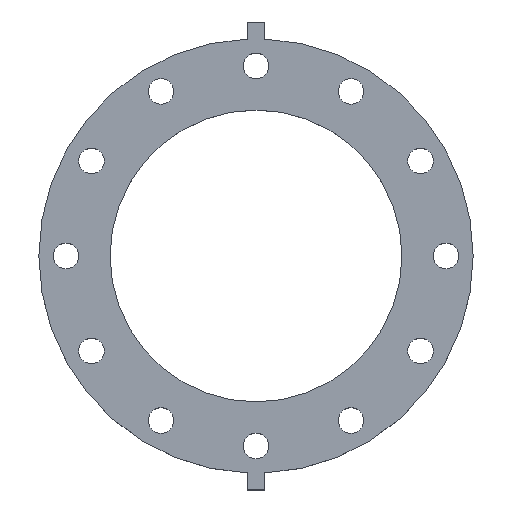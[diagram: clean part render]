
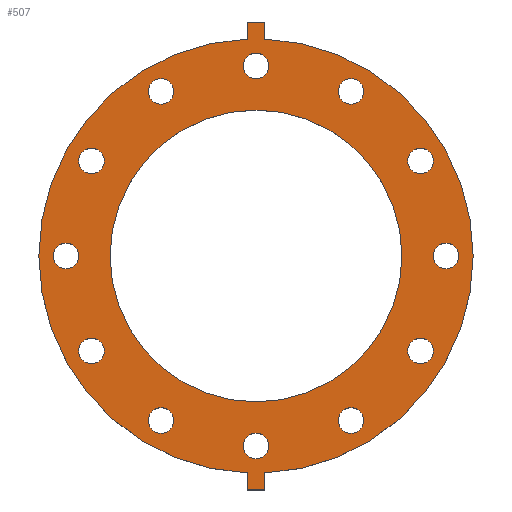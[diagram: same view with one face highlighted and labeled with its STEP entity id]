
A CAD part, top view. The second image highlights one B-rep face of the part: STEP entity #507.
In plain terms, the highlighted planar face has unit normal (0, 0, 1).
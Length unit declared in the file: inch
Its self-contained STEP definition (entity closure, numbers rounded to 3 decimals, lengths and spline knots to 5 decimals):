
#14=FACE_BOUND('',#93,.T.);
#15=FACE_BOUND('',#94,.T.);
#16=FACE_BOUND('',#95,.T.);
#17=FACE_BOUND('',#96,.T.);
#18=FACE_BOUND('',#97,.T.);
#19=FACE_BOUND('',#98,.T.);
#20=FACE_BOUND('',#99,.T.);
#21=FACE_BOUND('',#100,.T.);
#22=FACE_BOUND('',#101,.T.);
#23=FACE_BOUND('',#102,.T.);
#24=FACE_BOUND('',#103,.T.);
#25=FACE_BOUND('',#104,.T.);
#26=FACE_BOUND('',#105,.T.);
#46=PLANE('',#580);
#69=FACE_OUTER_BOUND('',#92,.T.);
#92=EDGE_LOOP('',(#405,#406,#407,#408,#409,#410,#411,#412));
#93=EDGE_LOOP('',(#413));
#94=EDGE_LOOP('',(#414));
#95=EDGE_LOOP('',(#415));
#96=EDGE_LOOP('',(#416));
#97=EDGE_LOOP('',(#417));
#98=EDGE_LOOP('',(#418));
#99=EDGE_LOOP('',(#419));
#100=EDGE_LOOP('',(#420));
#101=EDGE_LOOP('',(#421));
#102=EDGE_LOOP('',(#422));
#103=EDGE_LOOP('',(#423));
#104=EDGE_LOOP('',(#424));
#105=EDGE_LOOP('',(#425));
#139=LINE('',#825,#172);
#141=LINE('',#830,#174);
#144=LINE('',#834,#177);
#147=LINE('',#842,#180);
#150=LINE('',#846,#183);
#152=LINE('',#849,#185);
#172=VECTOR('',#695,0.3937);
#174=VECTOR('',#699,0.3937);
#177=VECTOR('',#704,0.3937);
#180=VECTOR('',#709,0.3937);
#183=VECTOR('',#714,0.3937);
#185=VECTOR('',#718,0.3937);
#186=CIRCLE('',#530,0.47);
#188=CIRCLE('',#533,0.47);
#190=CIRCLE('',#536,0.47);
#192=CIRCLE('',#539,0.47);
#194=CIRCLE('',#542,0.47);
#196=CIRCLE('',#545,0.47);
#198=CIRCLE('',#548,0.47);
#200=CIRCLE('',#551,0.47);
#202=CIRCLE('',#554,0.47);
#204=CIRCLE('',#557,0.47);
#206=CIRCLE('',#560,0.47);
#208=CIRCLE('',#563,0.47);
#211=CIRCLE('',#567,5.375);
#213=CIRCLE('',#570,8.);
#214=CIRCLE('',#572,8.);
#216=VERTEX_POINT('',#725);
#218=VERTEX_POINT('',#731);
#220=VERTEX_POINT('',#737);
#222=VERTEX_POINT('',#743);
#224=VERTEX_POINT('',#749);
#226=VERTEX_POINT('',#755);
#228=VERTEX_POINT('',#761);
#230=VERTEX_POINT('',#767);
#232=VERTEX_POINT('',#773);
#234=VERTEX_POINT('',#779);
#236=VERTEX_POINT('',#785);
#238=VERTEX_POINT('',#791);
#241=VERTEX_POINT('',#799);
#243=VERTEX_POINT('',#804);
#245=VERTEX_POINT('',#808);
#247=VERTEX_POINT('',#813);
#248=VERTEX_POINT('',#815);
#251=VERTEX_POINT('',#823);
#253=VERTEX_POINT('',#829);
#256=VERTEX_POINT('',#839);
#257=VERTEX_POINT('',#841);
#258=EDGE_CURVE('',#216,#216,#186,.T.);
#261=EDGE_CURVE('',#218,#218,#188,.T.);
#264=EDGE_CURVE('',#220,#220,#190,.T.);
#267=EDGE_CURVE('',#222,#222,#192,.T.);
#270=EDGE_CURVE('',#224,#224,#194,.T.);
#273=EDGE_CURVE('',#226,#226,#196,.T.);
#276=EDGE_CURVE('',#228,#228,#198,.T.);
#279=EDGE_CURVE('',#230,#230,#200,.T.);
#282=EDGE_CURVE('',#232,#232,#202,.T.);
#285=EDGE_CURVE('',#234,#234,#204,.T.);
#288=EDGE_CURVE('',#236,#236,#206,.T.);
#291=EDGE_CURVE('',#238,#238,#208,.T.);
#296=EDGE_CURVE('',#241,#241,#211,.T.);
#300=EDGE_CURVE('',#243,#245,#213,.T.);
#302=EDGE_CURVE('',#248,#247,#214,.T.);
#307=EDGE_CURVE('',#245,#251,#139,.T.);
#309=EDGE_CURVE('',#253,#248,#141,.T.);
#312=EDGE_CURVE('',#251,#253,#144,.T.);
#315=EDGE_CURVE('',#257,#256,#147,.T.);
#318=EDGE_CURVE('',#247,#257,#150,.T.);
#320=EDGE_CURVE('',#256,#243,#152,.T.);
#405=ORIENTED_EDGE('',*,*,#320,.T.);
#406=ORIENTED_EDGE('',*,*,#300,.T.);
#407=ORIENTED_EDGE('',*,*,#307,.T.);
#408=ORIENTED_EDGE('',*,*,#312,.T.);
#409=ORIENTED_EDGE('',*,*,#309,.T.);
#410=ORIENTED_EDGE('',*,*,#302,.T.);
#411=ORIENTED_EDGE('',*,*,#318,.T.);
#412=ORIENTED_EDGE('',*,*,#315,.T.);
#413=ORIENTED_EDGE('',*,*,#258,.T.);
#414=ORIENTED_EDGE('',*,*,#261,.T.);
#415=ORIENTED_EDGE('',*,*,#264,.T.);
#416=ORIENTED_EDGE('',*,*,#267,.T.);
#417=ORIENTED_EDGE('',*,*,#270,.T.);
#418=ORIENTED_EDGE('',*,*,#273,.T.);
#419=ORIENTED_EDGE('',*,*,#276,.T.);
#420=ORIENTED_EDGE('',*,*,#279,.T.);
#421=ORIENTED_EDGE('',*,*,#282,.T.);
#422=ORIENTED_EDGE('',*,*,#285,.T.);
#423=ORIENTED_EDGE('',*,*,#288,.T.);
#424=ORIENTED_EDGE('',*,*,#291,.T.);
#425=ORIENTED_EDGE('',*,*,#296,.T.);
#507=ADVANCED_FACE('',(#69,#14,#15,#16,#17,#18,#19,#20,#21,#22,#23,#24,
#25,#26),#46,.T.);
#530=AXIS2_PLACEMENT_3D('',#726,#586,#587);
#533=AXIS2_PLACEMENT_3D('',#732,#593,#594);
#536=AXIS2_PLACEMENT_3D('',#738,#600,#601);
#539=AXIS2_PLACEMENT_3D('',#744,#607,#608);
#542=AXIS2_PLACEMENT_3D('',#750,#614,#615);
#545=AXIS2_PLACEMENT_3D('',#756,#621,#622);
#548=AXIS2_PLACEMENT_3D('',#762,#628,#629);
#551=AXIS2_PLACEMENT_3D('',#768,#635,#636);
#554=AXIS2_PLACEMENT_3D('',#774,#642,#643);
#557=AXIS2_PLACEMENT_3D('',#780,#649,#650);
#560=AXIS2_PLACEMENT_3D('',#786,#656,#657);
#563=AXIS2_PLACEMENT_3D('',#792,#663,#664);
#567=AXIS2_PLACEMENT_3D('',#801,#673,#674);
#570=AXIS2_PLACEMENT_3D('',#810,#681,#682);
#572=AXIS2_PLACEMENT_3D('',#816,#686,#687);
#580=AXIS2_PLACEMENT_3D('',#850,#719,#720);
#586=DIRECTION('center_axis',(0.,0.,-1.));
#587=DIRECTION('ref_axis',(-0.5,-0.866,0.));
#593=DIRECTION('center_axis',(0.,0.,-1.));
#594=DIRECTION('ref_axis',(-0.866,-0.5,0.));
#600=DIRECTION('center_axis',(0.,0.,-1.));
#601=DIRECTION('ref_axis',(-1.,0.,0.));
#607=DIRECTION('center_axis',(0.,0.,-1.));
#608=DIRECTION('ref_axis',(-0.866,0.5,0.));
#614=DIRECTION('center_axis',(0.,0.,-1.));
#615=DIRECTION('ref_axis',(-0.5,0.866,0.));
#621=DIRECTION('center_axis',(0.,0.,-1.));
#622=DIRECTION('ref_axis',(0.,1.,0.));
#628=DIRECTION('center_axis',(0.,0.,-1.));
#629=DIRECTION('ref_axis',(0.5,0.866,0.));
#635=DIRECTION('center_axis',(0.,0.,-1.));
#636=DIRECTION('ref_axis',(0.866,0.5,0.));
#642=DIRECTION('center_axis',(0.,0.,-1.));
#643=DIRECTION('ref_axis',(1.,0.,0.));
#649=DIRECTION('center_axis',(0.,0.,-1.));
#650=DIRECTION('ref_axis',(0.866,-0.5,0.));
#656=DIRECTION('center_axis',(0.,0.,-1.));
#657=DIRECTION('ref_axis',(0.5,-0.866,0.));
#663=DIRECTION('center_axis',(0.,0.,-1.));
#664=DIRECTION('ref_axis',(0.,-1.,0.));
#673=DIRECTION('center_axis',(0.,0.,-1.));
#674=DIRECTION('ref_axis',(0.,-1.,0.));
#681=DIRECTION('center_axis',(0.,0.,1.));
#682=DIRECTION('ref_axis',(0.,1.,0.));
#686=DIRECTION('center_axis',(0.,0.,1.));
#687=DIRECTION('ref_axis',(0.,1.,0.));
#695=DIRECTION('',(0.,-1.,0.));
#699=DIRECTION('',(0.,1.,0.));
#704=DIRECTION('',(1.,0.,0.));
#709=DIRECTION('',(-1.,0.,0.));
#714=DIRECTION('',(0.,1.,0.));
#718=DIRECTION('',(0.,-1.,0.));
#719=DIRECTION('center_axis',(0.,0.,1.));
#720=DIRECTION('ref_axis',(0.,1.,0.));
#725=CARTESIAN_POINT('',(-5.82718,3.90703,1.25));
#726=CARTESIAN_POINT('Origin',(-6.06218,3.5,1.25));
#731=CARTESIAN_POINT('',(-3.09297,6.29718,1.25));
#732=CARTESIAN_POINT('Origin',(-3.5,6.06218,1.25));
#737=CARTESIAN_POINT('',(0.47,7.,1.25));
#738=CARTESIAN_POINT('Origin',(0.,7.,1.25));
#743=CARTESIAN_POINT('',(3.90703,5.82718,1.25));
#744=CARTESIAN_POINT('Origin',(3.5,6.06218,1.25));
#749=CARTESIAN_POINT('',(6.29718,3.09297,1.25));
#750=CARTESIAN_POINT('Origin',(6.06218,3.5,1.25));
#755=CARTESIAN_POINT('',(7.,-0.47,1.25));
#756=CARTESIAN_POINT('Origin',(7.,0.,1.25));
#761=CARTESIAN_POINT('',(5.82718,-3.90703,1.25));
#762=CARTESIAN_POINT('Origin',(6.06218,-3.5,1.25));
#767=CARTESIAN_POINT('',(3.09297,-6.29718,1.25));
#768=CARTESIAN_POINT('Origin',(3.5,-6.06218,1.25));
#773=CARTESIAN_POINT('',(-0.47,-7.,1.25));
#774=CARTESIAN_POINT('Origin',(0.,-7.,1.25));
#779=CARTESIAN_POINT('',(-3.90703,-5.82718,1.25));
#780=CARTESIAN_POINT('Origin',(-3.5,-6.06218,1.25));
#785=CARTESIAN_POINT('',(-6.29718,-3.09297,1.25));
#786=CARTESIAN_POINT('Origin',(-6.06218,-3.5,1.25));
#791=CARTESIAN_POINT('',(-7.,0.47,1.25));
#792=CARTESIAN_POINT('Origin',(-7.,0.,1.25));
#799=CARTESIAN_POINT('',(0.,5.375,1.25));
#801=CARTESIAN_POINT('Origin',(0.,0.,1.25));
#804=CARTESIAN_POINT('',(-0.32,7.9936,1.25));
#808=CARTESIAN_POINT('',(-0.32,-7.9936,1.25));
#810=CARTESIAN_POINT('Origin',(0.,0.,1.25));
#813=CARTESIAN_POINT('',(0.32,7.9936,1.25));
#815=CARTESIAN_POINT('',(0.32,-7.9936,1.25));
#816=CARTESIAN_POINT('Origin',(0.,0.,1.25));
#823=CARTESIAN_POINT('',(-0.32,-8.62,1.25));
#825=CARTESIAN_POINT('',(-0.32,-7.9936,1.25));
#829=CARTESIAN_POINT('',(0.32,-8.62,1.25));
#830=CARTESIAN_POINT('',(0.32,-8.62,1.25));
#834=CARTESIAN_POINT('',(-0.32,-8.62,1.25));
#839=CARTESIAN_POINT('',(-0.32,8.62,1.25));
#841=CARTESIAN_POINT('',(0.32,8.62,1.25));
#842=CARTESIAN_POINT('',(0.32,8.62,1.25));
#846=CARTESIAN_POINT('',(0.32,7.9936,1.25));
#849=CARTESIAN_POINT('',(-0.32,8.62,1.25));
#850=CARTESIAN_POINT('Origin',(0.,8.32876,1.25));
